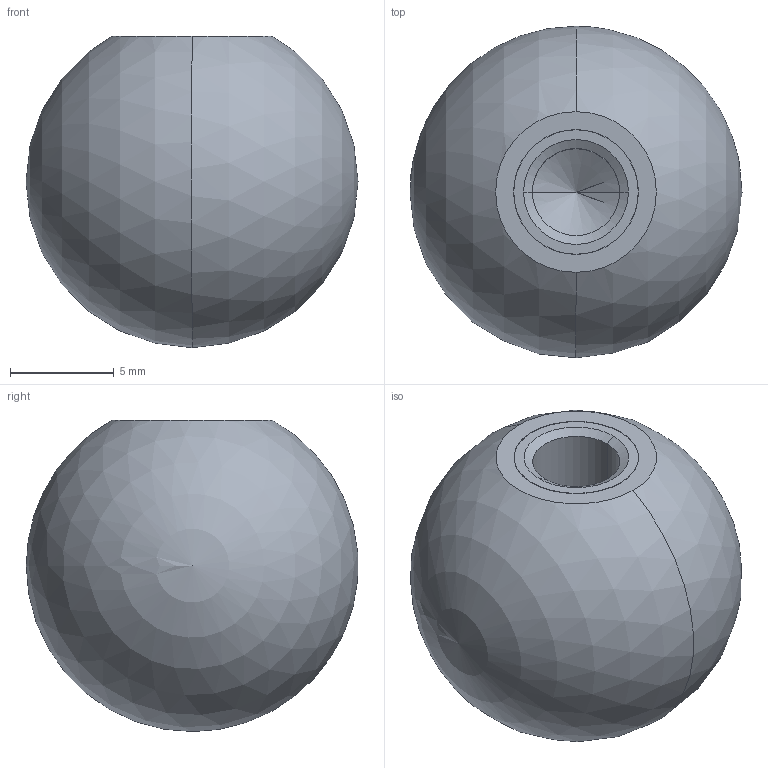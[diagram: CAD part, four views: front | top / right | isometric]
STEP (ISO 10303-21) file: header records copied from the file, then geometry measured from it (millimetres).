
FILE_DESCRIPTION (( 'STEP AP214' ), '1' );
FILE_NAME ('319-KT-16-M5-E.step', '2020-09-03T11:05:26', ( '' ), ( '' ), 'SwSTEP 2.0', 'SolidWorks 2019', '' );
FILE_SCHEMA (( 'AUTOMOTIVE_DESIGN' ));
Length unit declared in the file: millimetre
Products named in the file (1): 319-KT-16-M5-E
Bounding box: 16 x 15.98 x 15 mm (x, y, z)
Volume: 2003.2 mm3; surface area: 907.1 mm2
Topology: 1 solids, 1 shells, 15 faces, 35 edges, 21 vertices
Faces by surface type: cylinder 6, cone 4, plane 3, sphere 2
Entity records: 528 total; most frequent: DIRECTION 78, CARTESIAN_POINT 62, ORIENTED_EDGE 56, AXIS2_PLACEMENT_3D 34, EDGE_CURVE 28, VERTEX_POINT 18, CIRCLE 18, EDGE_LOOP 18
